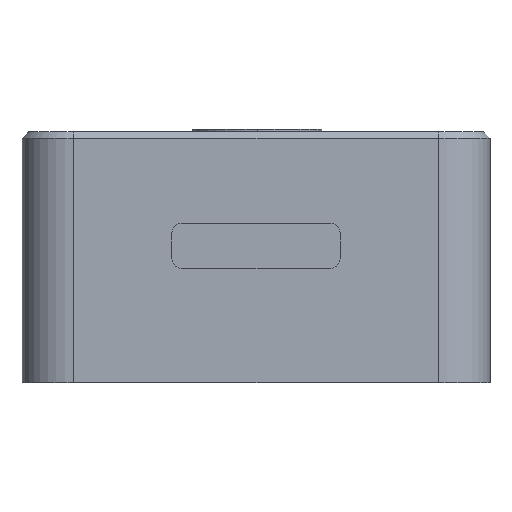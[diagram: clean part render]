
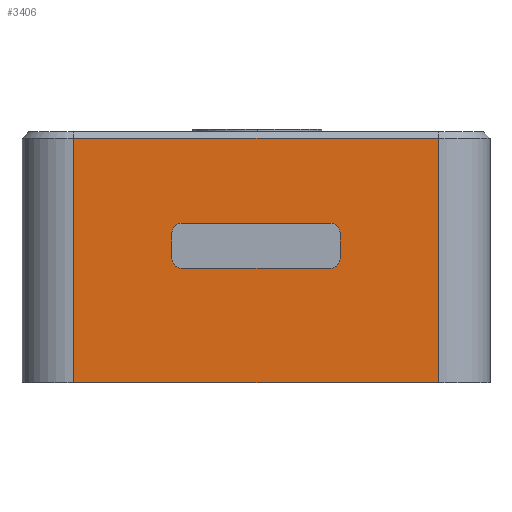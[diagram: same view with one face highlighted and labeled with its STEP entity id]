
A CAD part, left-side view. The second image highlights one B-rep face of the part: STEP entity #3406.
In plain terms, the highlighted planar face has unit normal (-1, 0, 0).
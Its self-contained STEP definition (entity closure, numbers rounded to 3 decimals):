
#12 = DIRECTION ( 'NONE',  ( 0., 0., 1. ) ) ;
#21 = ORIENTED_EDGE ( 'NONE', *, *, #455, .T. ) ;
#45 = VERTEX_POINT ( 'NONE', #2597 ) ;
#79 = DIRECTION ( 'NONE',  ( 0., 0., -1. ) ) ;
#159 = CARTESIAN_POINT ( 'NONE',  ( -35., -6.5, -1.1 ) ) ;
#185 = LINE ( 'NONE', #1122, #3679 ) ;
#238 = DIRECTION ( 'NONE',  ( 0., 0., -1. ) ) ;
#315 = ORIENTED_EDGE ( 'NONE', *, *, #502, .T. ) ;
#455 = EDGE_CURVE ( 'NONE', #45, #1854, #2068, .T. ) ;
#459 = VERTEX_POINT ( 'NONE', #5073 ) ;
#478 = DIRECTION ( 'NONE',  ( 1., 0., 0. ) ) ;
#502 = EDGE_CURVE ( 'NONE', #2186, #761, #571, .T. ) ;
#509 = CARTESIAN_POINT ( 'NONE',  ( -35., 14.1, -10.7 ) ) ;
#544 = AXIS2_PLACEMENT_3D ( 'NONE', #3674, #478, #3221 ) ;
#571 = CIRCLE ( 'NONE', #544, 0.75 ) ;
#587 = LINE ( 'NONE', #4435, #3946 ) ;
#650 = EDGE_CURVE ( 'NONE', #4599, #5700, #4713, .T. ) ;
#695 = VERTEX_POINT ( 'NONE', #5381 ) ;
#761 = VERTEX_POINT ( 'NONE', #2124 ) ;
#788 = LINE ( 'NONE', #2245, #1852 ) ;
#791 = ORIENTED_EDGE ( 'NONE', *, *, #4818, .T. ) ;
#829 = FACE_BOUND ( 'NONE', #3407, .T. ) ;
#847 = EDGE_CURVE ( 'NONE', #1854, #1161, #3708, .T. ) ;
#914 = ORIENTED_EDGE ( 'NONE', *, *, #5654, .T. ) ;
#968 = DIRECTION ( 'NONE',  ( 0., 0., -1. ) ) ;
#1090 = AXIS2_PLACEMENT_3D ( 'NONE', #4071, #4986, #2242 ) ;
#1122 = CARTESIAN_POINT ( 'NONE',  ( -35., 6.5, -1.85 ) ) ;
#1131 = CARTESIAN_POINT ( 'NONE',  ( -35., 14.1, 8.2 ) ) ;
#1161 = VERTEX_POINT ( 'NONE', #1928 ) ;
#1348 = EDGE_CURVE ( 'NONE', #695, #4825, #788, .T. ) ;
#1441 = ORIENTED_EDGE ( 'NONE', *, *, #1348, .T. ) ;
#1596 = DIRECTION ( 'NONE',  ( 0., 1., 0. ) ) ;
#1649 = ORIENTED_EDGE ( 'NONE', *, *, #4424, .T. ) ;
#1717 = CARTESIAN_POINT ( 'NONE',  ( -35., 6.5, 1.65 ) ) ;
#1760 = DIRECTION ( 'NONE',  ( 0., 0., -1. ) ) ;
#1781 = PLANE ( 'NONE',  #1090 ) ;
#1813 = ORIENTED_EDGE ( 'NONE', *, *, #650, .T. ) ;
#1848 = CARTESIAN_POINT ( 'NONE',  ( -35., -14.1, -10.7 ) ) ;
#1852 = VECTOR ( 'NONE', #5444, 1000. ) ;
#1854 = VERTEX_POINT ( 'NONE', #159 ) ;
#1928 = CARTESIAN_POINT ( 'NONE',  ( -35., -5.75, -1.85 ) ) ;
#1929 = VECTOR ( 'NONE', #4637, 1000. ) ;
#1980 = CARTESIAN_POINT ( 'NONE',  ( -35., 14.1, -10.7 ) ) ;
#2043 = LINE ( 'NONE', #5423, #4478 ) ;
#2068 = LINE ( 'NONE', #5549, #1929 ) ;
#2124 = CARTESIAN_POINT ( 'NONE',  ( -35., 6.5, -1.1 ) ) ;
#2186 = VERTEX_POINT ( 'NONE', #2663 ) ;
#2204 = ORIENTED_EDGE ( 'NONE', *, *, #3754, .T. ) ;
#2219 = CARTESIAN_POINT ( 'NONE',  ( -35., 5.75, 0.9 ) ) ;
#2223 = DIRECTION ( 'NONE',  ( 0., -1., 0. ) ) ;
#2242 = DIRECTION ( 'NONE',  ( 0., 0., -1. ) ) ;
#2245 = CARTESIAN_POINT ( 'NONE',  ( -35., 14.1, 8.2 ) ) ;
#2336 = ORIENTED_EDGE ( 'NONE', *, *, #5449, .T. ) ;
#2546 = ORIENTED_EDGE ( 'NONE', *, *, #3405, .T. ) ;
#2597 = CARTESIAN_POINT ( 'NONE',  ( -35., -6.5, 0.9 ) ) ;
#2657 = LINE ( 'NONE', #509, #4943 ) ;
#2663 = CARTESIAN_POINT ( 'NONE',  ( -35., 5.75, -1.85 ) ) ;
#2684 = AXIS2_PLACEMENT_3D ( 'NONE', #2219, #4957, #1760 ) ;
#2758 = VERTEX_POINT ( 'NONE', #4951 ) ;
#2811 = CIRCLE ( 'NONE', #3137, 0.75 ) ;
#2957 = EDGE_LOOP ( 'NONE', ( #914, #1441, #5114, #2336 ) ) ;
#2972 = DIRECTION ( 'NONE',  ( 1., 0., 0. ) ) ;
#3137 = AXIS2_PLACEMENT_3D ( 'NONE', #5702, #2972, #238 ) ;
#3221 = DIRECTION ( 'NONE',  ( 0., 0., -1. ) ) ;
#3249 = CARTESIAN_POINT ( 'NONE',  ( -35., 5.75, 1.65 ) ) ;
#3276 = DIRECTION ( 'NONE',  ( 1., 0., 0. ) ) ;
#3405 = EDGE_CURVE ( 'NONE', #5700, #459, #2043, .T. ) ;
#3406 = ADVANCED_FACE ( 'NONE', ( #4336, #829 ), #1781, .F. ) ;
#3407 = EDGE_LOOP ( 'NONE', ( #1649, #1813, #2546, #791, #21, #4756, #2204, #315 ) ) ;
#3512 = DIRECTION ( 'NONE',  ( 0., 0., 1. ) ) ;
#3674 = CARTESIAN_POINT ( 'NONE',  ( -35., 5.75, -1.1 ) ) ;
#3679 = VECTOR ( 'NONE', #1596, 1000. ) ;
#3691 = CARTESIAN_POINT ( 'NONE',  ( -35., 6.5, 0.9 ) ) ;
#3708 = CIRCLE ( 'NONE', #3796, 0.75 ) ;
#3729 = CARTESIAN_POINT ( 'NONE',  ( -35., -5.75, -1.1 ) ) ;
#3754 = EDGE_CURVE ( 'NONE', #1161, #2186, #185, .T. ) ;
#3796 = AXIS2_PLACEMENT_3D ( 'NONE', #3729, #3276, #79 ) ;
#3891 = LINE ( 'NONE', #1717, #4961 ) ;
#3946 = VECTOR ( 'NONE', #3969, 1000. ) ;
#3969 = DIRECTION ( 'NONE',  ( 0., -1., 0. ) ) ;
#4071 = CARTESIAN_POINT ( 'NONE',  ( -35., 18.1, -10.7 ) ) ;
#4336 = FACE_OUTER_BOUND ( 'NONE', #2957, .T. ) ;
#4424 = EDGE_CURVE ( 'NONE', #761, #4599, #3891, .T. ) ;
#4435 = CARTESIAN_POINT ( 'NONE',  ( -35., 18.1, -10.7 ) ) ;
#4478 = VECTOR ( 'NONE', #2223, 1000. ) ;
#4599 = VERTEX_POINT ( 'NONE', #3691 ) ;
#4637 = DIRECTION ( 'NONE',  ( 0., 0., -1. ) ) ;
#4713 = CIRCLE ( 'NONE', #2684, 0.75 ) ;
#4756 = ORIENTED_EDGE ( 'NONE', *, *, #847, .T. ) ;
#4818 = EDGE_CURVE ( 'NONE', #459, #45, #2811, .T. ) ;
#4825 = VERTEX_POINT ( 'NONE', #1131 ) ;
#4943 = VECTOR ( 'NONE', #968, 1000. ) ;
#4951 = CARTESIAN_POINT ( 'NONE',  ( -35., -14.1, -10.7 ) ) ;
#4957 = DIRECTION ( 'NONE',  ( 1., 0., 0. ) ) ;
#4961 = VECTOR ( 'NONE', #3512, 1000. ) ;
#4986 = DIRECTION ( 'NONE',  ( 1., 0., 0. ) ) ;
#5073 = CARTESIAN_POINT ( 'NONE',  ( -35., -5.75, 1.65 ) ) ;
#5114 = ORIENTED_EDGE ( 'NONE', *, *, #5697, .T. ) ;
#5237 = LINE ( 'NONE', #1848, #5379 ) ;
#5303 = VERTEX_POINT ( 'NONE', #1980 ) ;
#5379 = VECTOR ( 'NONE', #12, 1000. ) ;
#5381 = CARTESIAN_POINT ( 'NONE',  ( -35., -14.1, 8.2 ) ) ;
#5423 = CARTESIAN_POINT ( 'NONE',  ( -35., 6.5, 1.65 ) ) ;
#5444 = DIRECTION ( 'NONE',  ( 0., 1., 0. ) ) ;
#5449 = EDGE_CURVE ( 'NONE', #5303, #2758, #587, .T. ) ;
#5549 = CARTESIAN_POINT ( 'NONE',  ( -35., -6.5, 1.65 ) ) ;
#5654 = EDGE_CURVE ( 'NONE', #2758, #695, #5237, .T. ) ;
#5697 = EDGE_CURVE ( 'NONE', #4825, #5303, #2657, .T. ) ;
#5700 = VERTEX_POINT ( 'NONE', #3249 ) ;
#5702 = CARTESIAN_POINT ( 'NONE',  ( -35., -5.75, 0.9 ) ) ;
